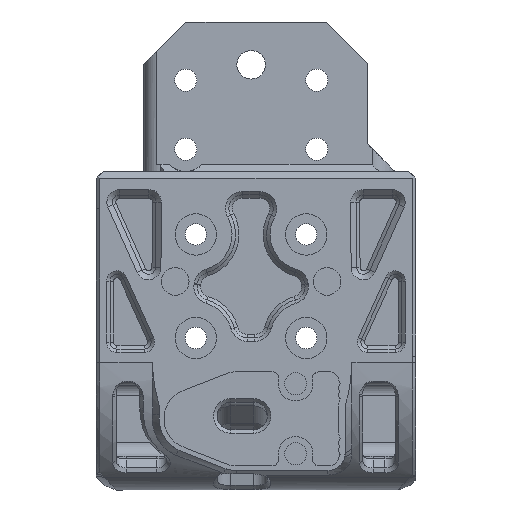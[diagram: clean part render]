
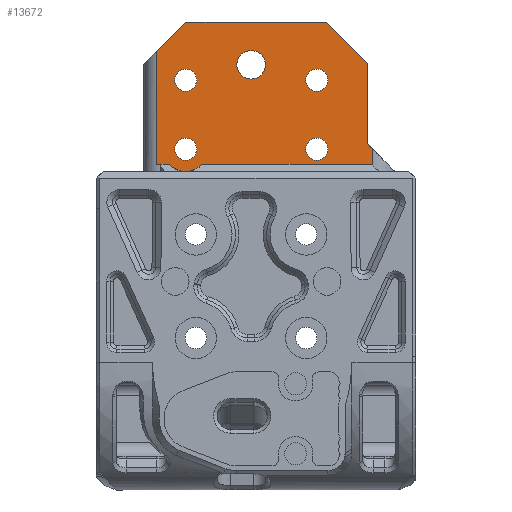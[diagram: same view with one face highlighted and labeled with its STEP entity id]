
A CAD part, front view. The second image highlights one B-rep face of the part: STEP entity #13672.
In plain terms, the highlighted planar face has unit normal (0, -1, 0).
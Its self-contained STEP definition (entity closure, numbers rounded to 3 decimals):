
#366=FACE_BOUND('',#1745,.T.);
#367=FACE_BOUND('',#1746,.T.);
#368=FACE_BOUND('',#1747,.T.);
#369=FACE_BOUND('',#1748,.T.);
#370=FACE_BOUND('',#1749,.T.);
#514=PLANE('',#14600);
#950=FACE_OUTER_BOUND('',#1744,.T.);
#1744=EDGE_LOOP('',(#9884,#9885,#9886,#9887,#9888,#9889,#9890,#9891,#9892,
#9893));
#1745=EDGE_LOOP('',(#9894));
#1746=EDGE_LOOP('',(#9895));
#1747=EDGE_LOOP('',(#9896));
#1748=EDGE_LOOP('',(#9897));
#1749=EDGE_LOOP('',(#9898));
#2717=LINE('',#20580,#4103);
#2721=LINE('',#20587,#4107);
#2722=LINE('',#20590,#4108);
#2758=LINE('',#20744,#4144);
#2772=LINE('',#20953,#4158);
#2783=LINE('',#20977,#4169);
#2786=LINE('',#20983,#4172);
#2787=LINE('',#20986,#4173);
#2788=LINE('',#20987,#4174);
#4103=VECTOR('',#16150,10.);
#4107=VECTOR('',#16156,10.);
#4108=VECTOR('',#16159,10.);
#4144=VECTOR('',#16307,10.);
#4158=VECTOR('',#16339,10.);
#4169=VECTOR('',#16360,10.);
#4172=VECTOR('',#16365,10.);
#4173=VECTOR('',#16368,10.);
#4174=VECTOR('',#16369,10.);
#5368=CIRCLE('',#14511,3.25);
#5369=CIRCLE('',#14513,2.075);
#5371=CIRCLE('',#14516,1.6);
#5373=CIRCLE('',#14519,1.6);
#5375=CIRCLE('',#14522,1.6);
#5377=CIRCLE('',#14531,1.6);
#6072=VERTEX_POINT('',#20535);
#6074=VERTEX_POINT('',#20539);
#6075=VERTEX_POINT('',#20543);
#6077=VERTEX_POINT('',#20549);
#6079=VERTEX_POINT('',#20555);
#6081=VERTEX_POINT('',#20561);
#6088=VERTEX_POINT('',#20577);
#6089=VERTEX_POINT('',#20579);
#6091=VERTEX_POINT('',#20585);
#6092=VERTEX_POINT('',#20589);
#6094=VERTEX_POINT('',#20595);
#6154=VERTEX_POINT('',#20742);
#6183=VERTEX_POINT('',#20975);
#6185=VERTEX_POINT('',#20980);
#6186=VERTEX_POINT('',#20985);
#7467=EDGE_CURVE('',#6072,#6074,#5368,.F.);
#7468=EDGE_CURVE('',#6075,#6075,#5369,.T.);
#7471=EDGE_CURVE('',#6077,#6077,#5371,.T.);
#7474=EDGE_CURVE('',#6079,#6079,#5373,.T.);
#7477=EDGE_CURVE('',#6081,#6081,#5375,.T.);
#7485=EDGE_CURVE('',#6089,#6088,#2717,.T.);
#7489=EDGE_CURVE('',#6088,#6091,#2721,.T.);
#7490=EDGE_CURVE('',#6091,#6092,#2722,.T.);
#7493=EDGE_CURVE('',#6094,#6094,#5377,.T.);
#7565=EDGE_CURVE('',#6092,#6154,#2758,.T.);
#7593=EDGE_CURVE('',#6072,#6154,#2772,.T.);
#7605=EDGE_CURVE('',#6183,#6074,#2783,.T.);
#7608=EDGE_CURVE('',#6185,#6089,#2786,.T.);
#7609=EDGE_CURVE('',#6183,#6186,#2787,.T.);
#7610=EDGE_CURVE('',#6186,#6185,#2788,.T.);
#9884=ORIENTED_EDGE('',*,*,#7565,.T.);
#9885=ORIENTED_EDGE('',*,*,#7593,.F.);
#9886=ORIENTED_EDGE('',*,*,#7467,.T.);
#9887=ORIENTED_EDGE('',*,*,#7605,.F.);
#9888=ORIENTED_EDGE('',*,*,#7609,.T.);
#9889=ORIENTED_EDGE('',*,*,#7610,.T.);
#9890=ORIENTED_EDGE('',*,*,#7608,.T.);
#9891=ORIENTED_EDGE('',*,*,#7485,.T.);
#9892=ORIENTED_EDGE('',*,*,#7489,.T.);
#9893=ORIENTED_EDGE('',*,*,#7490,.T.);
#9894=ORIENTED_EDGE('',*,*,#7471,.T.);
#9895=ORIENTED_EDGE('',*,*,#7474,.T.);
#9896=ORIENTED_EDGE('',*,*,#7477,.T.);
#9897=ORIENTED_EDGE('',*,*,#7493,.T.);
#9898=ORIENTED_EDGE('',*,*,#7468,.T.);
#13672=ADVANCED_FACE('',(#950,#366,#367,#368,#369,#370),#514,.T.);
#14511=AXIS2_PLACEMENT_3D('',#20541,#16110,#16111);
#14513=AXIS2_PLACEMENT_3D('',#20544,#16114,#16115);
#14516=AXIS2_PLACEMENT_3D('',#20550,#16121,#16122);
#14519=AXIS2_PLACEMENT_3D('',#20556,#16128,#16129);
#14522=AXIS2_PLACEMENT_3D('',#20562,#16135,#16136);
#14531=AXIS2_PLACEMENT_3D('',#20596,#16165,#16166);
#14600=AXIS2_PLACEMENT_3D('',#20984,#16366,#16367);
#16110=DIRECTION('center_axis',(0.,1.,0.));
#16111=DIRECTION('ref_axis',(1.,0.,0.));
#16114=DIRECTION('center_axis',(0.,1.,0.));
#16115=DIRECTION('ref_axis',(-1.,0.,0.));
#16121=DIRECTION('center_axis',(0.,1.,0.));
#16122=DIRECTION('ref_axis',(-1.,0.,0.));
#16128=DIRECTION('center_axis',(0.,1.,0.));
#16129=DIRECTION('ref_axis',(-1.,0.,0.));
#16135=DIRECTION('center_axis',(0.,1.,0.));
#16136=DIRECTION('ref_axis',(-1.,0.,0.));
#16150=DIRECTION('',(-0.707,0.,0.707));
#16156=DIRECTION('',(-1.,0.,0.));
#16159=DIRECTION('',(-0.707,0.,-0.707));
#16165=DIRECTION('center_axis',(0.,1.,0.));
#16166=DIRECTION('ref_axis',(-1.,0.,0.));
#16307=DIRECTION('',(0.,0.,-1.));
#16339=DIRECTION('',(-1.,0.,0.));
#16360=DIRECTION('',(-1.,0.,0.));
#16365=DIRECTION('',(0.,0.,1.));
#16366=DIRECTION('center_axis',(0.,-1.,0.));
#16367=DIRECTION('ref_axis',(1.,0.,0.));
#16368=DIRECTION('',(0.,0.,1.));
#16369=DIRECTION('',(-0.707,0.,0.707));
#20535=CARTESIAN_POINT('',(-11.869,58.75,-22.5));
#20539=CARTESIAN_POINT('',(-7.131,58.75,-22.5));
#20541=CARTESIAN_POINT('Origin',(-9.5,58.75,-20.275));
#20543=CARTESIAN_POINT('',(2.075,58.75,-8.05));
#20544=CARTESIAN_POINT('Origin',(0.,58.75,-8.05));
#20549=CARTESIAN_POINT('',(11.1,58.75,-20.275));
#20550=CARTESIAN_POINT('Origin',(9.5,58.75,-20.275));
#20555=CARTESIAN_POINT('',(11.1,58.75,-10.275));
#20556=CARTESIAN_POINT('Origin',(9.5,58.75,-10.275));
#20561=CARTESIAN_POINT('',(-7.9,58.75,-20.275));
#20562=CARTESIAN_POINT('Origin',(-9.5,58.75,-20.275));
#20577=CARTESIAN_POINT('',(10.85,58.75,-1.85));
#20579=CARTESIAN_POINT('',(16.85,58.75,-7.85));
#20580=CARTESIAN_POINT('',(12.639,58.75,-3.639));
#20585=CARTESIAN_POINT('',(-9.445,58.75,-1.85));
#20587=CARTESIAN_POINT('',(-7.371,58.75,-1.85));
#20589=CARTESIAN_POINT('',(-13.676,58.75,-6.081));
#20590=CARTESIAN_POINT('',(-19.308,58.75,-11.713));
#20595=CARTESIAN_POINT('',(-7.9,58.75,-10.275));
#20596=CARTESIAN_POINT('Origin',(-9.5,58.75,-10.275));
#20742=CARTESIAN_POINT('',(-13.676,58.75,-22.5));
#20744=CARTESIAN_POINT('',(-13.676,58.75,-23.408));
#20953=CARTESIAN_POINT('',(-7.698,58.75,-22.5));
#20975=CARTESIAN_POINT('',(17.517,58.75,-22.5));
#20977=CARTESIAN_POINT('',(-7.698,58.75,-22.5));
#20980=CARTESIAN_POINT('',(16.85,58.75,-19.5));
#20983=CARTESIAN_POINT('',(16.85,58.75,-29.3));
#20984=CARTESIAN_POINT('Origin',(-15.445,58.75,-29.3));
#20985=CARTESIAN_POINT('',(17.517,58.75,-20.167));
#20986=CARTESIAN_POINT('',(17.517,58.75,-21.622));
#20987=CARTESIAN_POINT('',(12.226,58.75,-14.876));
